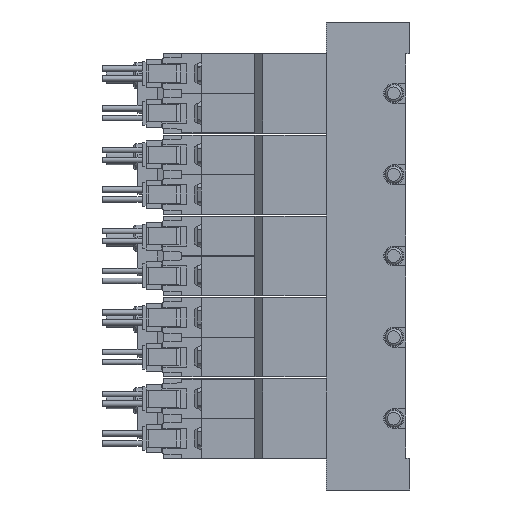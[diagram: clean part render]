
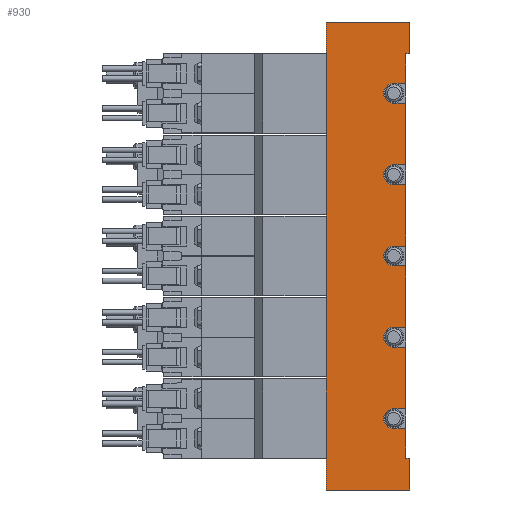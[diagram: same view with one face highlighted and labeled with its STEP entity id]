
A CAD part, left-side view. The second image highlights one B-rep face of the part: STEP entity #930.
In plain terms, the highlighted planar face has unit normal (-1, 0, 0) as drawn and (1, 0, 0) by its records, which use the part's own axes.
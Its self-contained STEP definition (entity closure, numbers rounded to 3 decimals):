
#930=ADVANCED_FACE('',(#2002),#2003,.F.);
#2002=FACE_OUTER_BOUND('',#3100,.T.);
#2003=PLANE('',#3101);
#3100=EDGE_LOOP('',(#6741,#6742,#6743,#6744,#6745,#6746,#6747,#6748,#6749,#6750,#6751,#6752,#6753,#6754,#6755,#6756,#6757,#6758,#6759,#6760,#6761,#6762,#6763,#6764,#6765,#6766,#6767,#6768));
#3101=AXIS2_PLACEMENT_3D('',#6769,#6770,#6771);
#6741=ORIENTED_EDGE('',*,*,#7908,.T.);
#6742=ORIENTED_EDGE('',*,*,#7993,.T.);
#6743=ORIENTED_EDGE('',*,*,#7892,.F.);
#6744=ORIENTED_EDGE('',*,*,#7976,.F.);
#6745=ORIENTED_EDGE('',*,*,#7832,.T.);
#6746=ORIENTED_EDGE('',*,*,#7964,.T.);
#6747=ORIENTED_EDGE('',*,*,#8010,.T.);
#6748=ORIENTED_EDGE('',*,*,#7939,.F.);
#6749=ORIENTED_EDGE('',*,*,#8011,.F.);
#6750=ORIENTED_EDGE('',*,*,#7942,.F.);
#6751=ORIENTED_EDGE('',*,*,#8009,.T.);
#6752=ORIENTED_EDGE('',*,*,#8012,.F.);
#6753=ORIENTED_EDGE('',*,*,#7983,.F.);
#6754=ORIENTED_EDGE('',*,*,#7866,.F.);
#6755=ORIENTED_EDGE('',*,*,#8007,.T.);
#6756=ORIENTED_EDGE('',*,*,#8013,.F.);
#6757=ORIENTED_EDGE('',*,*,#7991,.F.);
#6758=ORIENTED_EDGE('',*,*,#7900,.F.);
#6759=ORIENTED_EDGE('',*,*,#8004,.T.);
#6760=ORIENTED_EDGE('',*,*,#7967,.F.);
#6761=ORIENTED_EDGE('',*,*,#7841,.F.);
#6762=ORIENTED_EDGE('',*,*,#8014,.F.);
#6763=ORIENTED_EDGE('',*,*,#8002,.T.);
#6764=ORIENTED_EDGE('',*,*,#7875,.F.);
#6765=ORIENTED_EDGE('',*,*,#7852,.F.);
#6766=ORIENTED_EDGE('',*,*,#7994,.F.);
#6767=ORIENTED_EDGE('',*,*,#8001,.T.);
#6768=ORIENTED_EDGE('',*,*,#7998,.T.);
#6769=CARTESIAN_POINT('',(17.5,1.0,59.0));
#6770=DIRECTION('',(-1.0,0.0,0.0));
#6771=DIRECTION('',(0.0,0.0,1.0));
#7832=EDGE_CURVE('',#9633,#9634,#9635,.T.);
#7841=EDGE_CURVE('',#9648,#9650,#9651,.T.);
#7852=EDGE_CURVE('',#9670,#9672,#9673,.T.);
#7866=EDGE_CURVE('',#9697,#9698,#9699,.T.);
#7875=EDGE_CURVE('',#9672,#9713,#9714,.T.);
#7892=EDGE_CURVE('',#9744,#9739,#9746,.T.);
#7900=EDGE_CURVE('',#9760,#9761,#9762,.T.);
#7908=EDGE_CURVE('',#9775,#9776,#9777,.T.);
#7939=EDGE_CURVE('',#9833,#9834,#9835,.T.);
#7942=EDGE_CURVE('',#9838,#9839,#9840,.T.);
#7964=EDGE_CURVE('',#9634,#9876,#9878,.T.);
#7967=EDGE_CURVE('',#9650,#9882,#9883,.T.);
#7976=EDGE_CURVE('',#9633,#9744,#9895,.T.);
#7983=EDGE_CURVE('',#9698,#9907,#9908,.T.);
#7991=EDGE_CURVE('',#9761,#9921,#9922,.T.);
#7993=EDGE_CURVE('',#9776,#9739,#9924,.T.);
#7994=EDGE_CURVE('',#9925,#9670,#9926,.T.);
#7998=EDGE_CURVE('',#9930,#9775,#9932,.T.);
#8001=EDGE_CURVE('',#9925,#9930,#9936,.T.);
#8002=EDGE_CURVE('',#9937,#9713,#9938,.T.);
#8004=EDGE_CURVE('',#9760,#9882,#9940,.T.);
#8007=EDGE_CURVE('',#9697,#9943,#9945,.T.);
#8009=EDGE_CURVE('',#9838,#9946,#9948,.T.);
#8010=EDGE_CURVE('',#9876,#9834,#9949,.T.);
#8011=EDGE_CURVE('',#9839,#9833,#9950,.T.);
#8012=EDGE_CURVE('',#9907,#9946,#9951,.T.);
#8013=EDGE_CURVE('',#9921,#9943,#9952,.T.);
#8014=EDGE_CURVE('',#9937,#9648,#9953,.T.);
#9633=VERTEX_POINT('',#12603);
#9634=VERTEX_POINT('',#12604);
#9635=LINE('',#12605,#12606);
#9648=VERTEX_POINT('',#12622);
#9650=VERTEX_POINT('',#12625);
#9651=CIRCLE('',#12626,2.5);
#9670=VERTEX_POINT('',#12648);
#9672=VERTEX_POINT('',#12651);
#9673=CIRCLE('',#12652,2.5);
#9697=VERTEX_POINT('',#12683);
#9698=VERTEX_POINT('',#12684);
#9699=LINE('',#12685,#12686);
#9713=VERTEX_POINT('',#12704);
#9714=LINE('',#12705,#12706);
#9739=VERTEX_POINT('',#12736);
#9744=VERTEX_POINT('',#12743);
#9746=LINE('',#12746,#12747);
#9760=VERTEX_POINT('',#12763);
#9761=VERTEX_POINT('',#12764);
#9762=LINE('',#12765,#12766);
#9775=VERTEX_POINT('',#12782);
#9776=VERTEX_POINT('',#12783);
#9777=LINE('',#12784,#12785);
#9833=VERTEX_POINT('',#12853);
#9834=VERTEX_POINT('',#12854);
#9835=LINE('',#12855,#12856);
#9838=VERTEX_POINT('',#12861);
#9839=VERTEX_POINT('',#12862);
#9840=LINE('',#12863,#12864);
#9876=VERTEX_POINT('',#13083);
#9878=LINE('',#13086,#13087);
#9882=VERTEX_POINT('',#13092);
#9883=LINE('',#13093,#13094);
#9895=LINE('',#13111,#13112);
#9907=VERTEX_POINT('',#13124);
#9908=CIRCLE('',#13125,2.5);
#9921=VERTEX_POINT('',#13141);
#9922=CIRCLE('',#13142,2.5);
#9924=LINE('',#13145,#13146);
#9925=VERTEX_POINT('',#13147);
#9926=LINE('',#13148,#13149);
#9930=VERTEX_POINT('',#13154);
#9932=LINE('',#13157,#13158);
#9936=LINE('',#13162,#13163);
#9937=VERTEX_POINT('',#13164);
#9938=LINE('',#13165,#13166);
#9940=LINE('',#13169,#13170);
#9943=VERTEX_POINT('',#13174);
#9945=LINE('',#13177,#13178);
#9946=VERTEX_POINT('',#13179);
#9948=LINE('',#13182,#13183);
#9949=LINE('',#13184,#13185);
#9950=CIRCLE('',#13186,2.5);
#9951=LINE('',#13187,#13188);
#9952=LINE('',#13189,#13190);
#9953=LINE('',#13191,#13192);
#12603=CARTESIAN_POINT('',(17.5,0.0,59.0));
#12604=CARTESIAN_POINT('',(17.5,0.0,51.0));
#12605=CARTESIAN_POINT('',(17.5,0.0,59.0));
#12606=VECTOR('',#14391,1.0);
#12622=CARTESIAN_POINT('',(17.5,4.0,-23.0));
#12625=CARTESIAN_POINT('',(17.5,4.0,-18.0));
#12626=AXIS2_PLACEMENT_3D('',#14405,#14406,#14407);
#12648=CARTESIAN_POINT('',(17.5,4.0,-43.5));
#12651=CARTESIAN_POINT('',(17.5,4.0,-38.5));
#12652=AXIS2_PLACEMENT_3D('',#14430,#14431,#14432);
#12683=CARTESIAN_POINT('',(17.5,1.0,18.0));
#12684=CARTESIAN_POINT('',(17.5,4.0,18.0));
#12685=CARTESIAN_POINT('',(17.5,1.0,18.0));
#12686=VECTOR('',#14458,1.0);
#12704=CARTESIAN_POINT('',(17.5,1.0,-38.5));
#12705=CARTESIAN_POINT('',(17.5,1.0,-38.5));
#12706=VECTOR('',#14472,1.0);
#12736=CARTESIAN_POINT('',(17.5,21.0,-59.0));
#12743=CARTESIAN_POINT('',(17.5,21.0,59.0));
#12746=CARTESIAN_POINT('',(17.5,21.0,59.0));
#12747=VECTOR('',#14505,1.0);
#12763=CARTESIAN_POINT('',(17.5,1.0,-2.5));
#12764=CARTESIAN_POINT('',(17.5,4.0,-2.5));
#12765=CARTESIAN_POINT('',(17.5,1.0,-2.5));
#12766=VECTOR('',#14523,1.0);
#12782=CARTESIAN_POINT('',(17.5,0.0,-51.0));
#12783=CARTESIAN_POINT('',(17.5,0.0,-59.0));
#12784=CARTESIAN_POINT('',(17.5,0.0,-51.0));
#12785=VECTOR('',#14539,1.0);
#12853=CARTESIAN_POINT('',(17.5,4.0,43.5));
#12854=CARTESIAN_POINT('',(17.5,1.0,43.5));
#12855=CARTESIAN_POINT('',(17.5,1.0,43.5));
#12856=VECTOR('',#14606,1.0);
#12861=CARTESIAN_POINT('',(17.5,1.0,38.5));
#12862=CARTESIAN_POINT('',(17.5,4.0,38.5));
#12863=CARTESIAN_POINT('',(17.5,1.0,38.5));
#12864=VECTOR('',#14609,1.0);
#13083=CARTESIAN_POINT('',(17.5,1.0,51.0));
#13086=CARTESIAN_POINT('',(17.5,0.0,51.0));
#13087=VECTOR('',#14642,1.0);
#13092=CARTESIAN_POINT('',(17.5,1.0,-18.0));
#13093=CARTESIAN_POINT('',(17.5,1.0,-18.0));
#13094=VECTOR('',#14647,1.0);
#13111=CARTESIAN_POINT('',(17.5,1.0,59.0));
#13112=VECTOR('',#14662,1.0);
#13124=CARTESIAN_POINT('',(17.5,4.0,23.0));
#13125=AXIS2_PLACEMENT_3D('',#14681,#14682,#14683);
#13141=CARTESIAN_POINT('',(17.5,4.0,2.5));
#13142=AXIS2_PLACEMENT_3D('',#14699,#14700,#14701);
#13145=CARTESIAN_POINT('',(17.5,1.0,-59.0));
#13146=VECTOR('',#14703,1.0);
#13147=CARTESIAN_POINT('',(17.5,1.0,-43.5));
#13148=CARTESIAN_POINT('',(17.5,1.0,-43.5));
#13149=VECTOR('',#14704,1.0);
#13154=CARTESIAN_POINT('',(17.5,1.0,-51.0));
#13157=CARTESIAN_POINT('',(17.5,4.0,-51.0));
#13158=VECTOR('',#14710,1.0);
#13162=CARTESIAN_POINT('',(17.5,1.0,59.0));
#13163=VECTOR('',#14717,1.0);
#13164=CARTESIAN_POINT('',(17.5,1.0,-23.0));
#13165=CARTESIAN_POINT('',(17.5,1.0,59.0));
#13166=VECTOR('',#14718,1.0);
#13169=CARTESIAN_POINT('',(17.5,1.0,59.0));
#13170=VECTOR('',#14720,1.0);
#13174=CARTESIAN_POINT('',(17.5,1.0,2.5));
#13177=CARTESIAN_POINT('',(17.5,1.0,59.0));
#13178=VECTOR('',#14723,1.0);
#13179=CARTESIAN_POINT('',(17.5,1.0,23.0));
#13182=CARTESIAN_POINT('',(17.5,1.0,59.0));
#13183=VECTOR('',#14725,1.0);
#13184=CARTESIAN_POINT('',(17.5,1.0,59.0));
#13185=VECTOR('',#14726,1.0);
#13186=AXIS2_PLACEMENT_3D('',#14727,#14728,#14729);
#13187=CARTESIAN_POINT('',(17.5,1.0,23.0));
#13188=VECTOR('',#14730,1.0);
#13189=CARTESIAN_POINT('',(17.5,1.0,2.5));
#13190=VECTOR('',#14731,1.0);
#13191=CARTESIAN_POINT('',(17.5,1.0,-23.0));
#13192=VECTOR('',#14732,1.0);
#14391=DIRECTION('',(0.0,0.0,-1.0));
#14405=CARTESIAN_POINT('',(17.5,4.0,-20.5));
#14406=DIRECTION('',(1.0,0.0,-0.0));
#14407=DIRECTION('',(0.0,0.0,1.0));
#14430=CARTESIAN_POINT('',(17.5,4.0,-41.0));
#14431=DIRECTION('',(1.0,0.0,-0.0));
#14432=DIRECTION('',(0.0,0.0,1.0));
#14458=DIRECTION('',(0.0,1.0,0.0));
#14472=DIRECTION('',(0.0,-1.0,0.0));
#14505=DIRECTION('',(0.0,0.0,-1.0));
#14523=DIRECTION('',(0.0,1.0,0.0));
#14539=DIRECTION('',(0.0,0.0,-1.0));
#14606=DIRECTION('',(0.0,-1.0,0.0));
#14609=DIRECTION('',(0.0,1.0,0.0));
#14642=DIRECTION('',(0.0,1.0,0.0));
#14647=DIRECTION('',(0.0,-1.0,0.0));
#14662=DIRECTION('',(0.0,1.0,0.0));
#14681=CARTESIAN_POINT('',(17.5,4.0,20.5));
#14682=DIRECTION('',(1.0,0.0,-0.0));
#14683=DIRECTION('',(0.0,0.0,1.0));
#14699=CARTESIAN_POINT('',(17.5,4.0,0.0));
#14700=DIRECTION('',(1.0,0.0,-0.0));
#14701=DIRECTION('',(0.0,0.0,1.0));
#14703=DIRECTION('',(0.0,1.0,0.0));
#14704=DIRECTION('',(0.0,1.0,0.0));
#14710=DIRECTION('',(0.0,-1.0,0.0));
#14717=DIRECTION('',(0.0,0.0,-1.0));
#14718=DIRECTION('',(0.0,0.0,-1.0));
#14720=DIRECTION('',(0.0,0.0,-1.0));
#14723=DIRECTION('',(0.0,0.0,-1.0));
#14725=DIRECTION('',(0.0,0.0,-1.0));
#14726=DIRECTION('',(0.0,0.0,-1.0));
#14727=CARTESIAN_POINT('',(17.5,4.0,41.0));
#14728=DIRECTION('',(1.0,0.0,-0.0));
#14729=DIRECTION('',(0.0,0.0,1.0));
#14730=DIRECTION('',(0.0,-1.0,0.0));
#14731=DIRECTION('',(0.0,-1.0,0.0));
#14732=DIRECTION('',(0.0,1.0,0.0));
